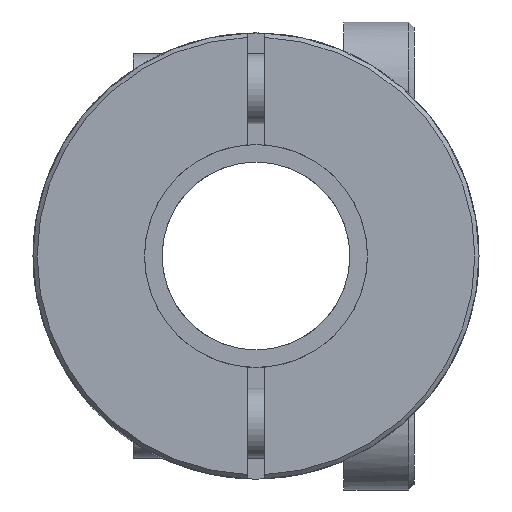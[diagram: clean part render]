
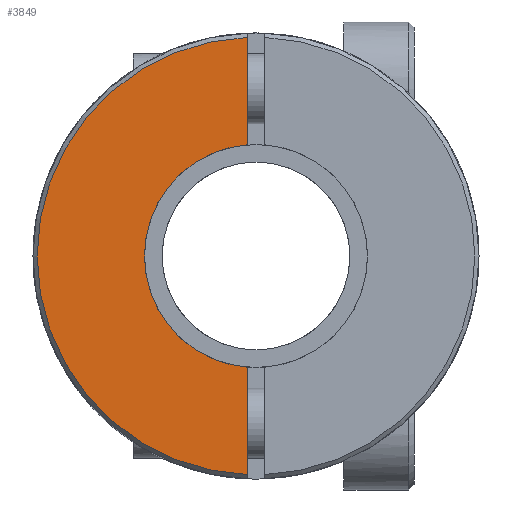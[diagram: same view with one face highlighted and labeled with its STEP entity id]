
A CAD part, front view. The second image highlights one B-rep face of the part: STEP entity #3849.
In plain terms, the highlighted planar face has unit normal (0, -1, 0).
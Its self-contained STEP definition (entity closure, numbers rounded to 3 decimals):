
#1=DIRECTION('',(0.,0.,-1.));
#2=VECTOR('',#1,3.06);
#3=CARTESIAN_POINT('',(-0.25,-12.7,6.225));
#4=LINE('',#3,#2);
#5=DIRECTION('',(0.,0.,-1.));
#6=VECTOR('',#5,3.06);
#7=CARTESIAN_POINT('',(-0.25,-12.7,-3.165));
#8=LINE('',#7,#6);
#72=CARTESIAN_POINT('',(0.,-12.7,0.));
#73=DIRECTION('',(0.,1.,0.));
#74=DIRECTION('',(-0.079,0.,-0.997));
#75=AXIS2_PLACEMENT_3D('',#72,#73,#74);
#2890=CARTESIAN_POINT('',(0.,-12.7,0.));
#2891=DIRECTION('',(0.,-1.,0.));
#2892=DIRECTION('',(-0.04,0.,0.999));
#2893=AXIS2_PLACEMENT_3D('',#2890,#2891,#2892);
#3500=CARTESIAN_POINT('',(-0.25,-12.7,6.225));
#3501=CARTESIAN_POINT('',(-0.25,-12.7,3.165));
#3502=VERTEX_POINT('',#3500);
#3503=VERTEX_POINT('',#3501);
#3504=CARTESIAN_POINT('',(-0.25,-12.7,-3.165));
#3505=CARTESIAN_POINT('',(-0.25,-12.7,-6.225));
#3506=VERTEX_POINT('',#3504);
#3507=VERTEX_POINT('',#3505);
#3834=CARTESIAN_POINT('',(0.,-12.7,0.));
#3835=DIRECTION('',(0.,1.,0.));
#3836=DIRECTION('',(1.,0.,0.));
#3837=AXIS2_PLACEMENT_3D('',#3834,#3835,#3836);
#3838=PLANE('',#3837);
#3840=ORIENTED_EDGE('',*,*,#3839,.T.);
#3842=ORIENTED_EDGE('',*,*,#3841,.F.);
#3844=ORIENTED_EDGE('',*,*,#3843,.T.);
#3846=ORIENTED_EDGE('',*,*,#3845,.F.);
#3847=EDGE_LOOP('',(#3840,#3842,#3844,#3846));
#3848=FACE_OUTER_BOUND('',#3847,.F.);
#3849=ADVANCED_FACE('',(#3848),#3838,.F.);
#76=CIRCLE('',#75,3.175);
#2894=CIRCLE('',#2893,6.23);
#3839=EDGE_CURVE('',#3502,#3503,#4,.T.);
#3841=EDGE_CURVE('',#3506,#3503,#76,.T.);
#3843=EDGE_CURVE('',#3506,#3507,#8,.T.);
#3845=EDGE_CURVE('',#3502,#3507,#2894,.T.);
